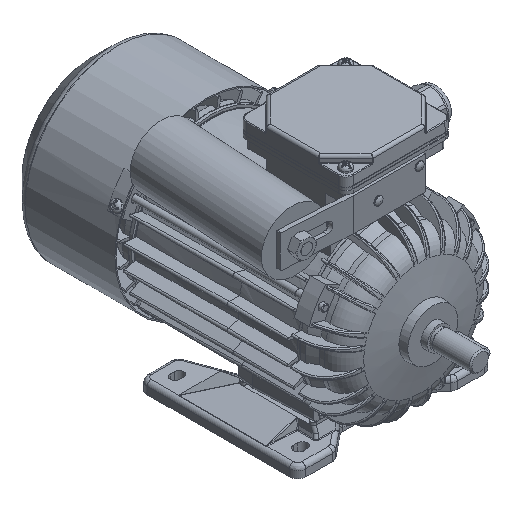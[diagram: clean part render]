
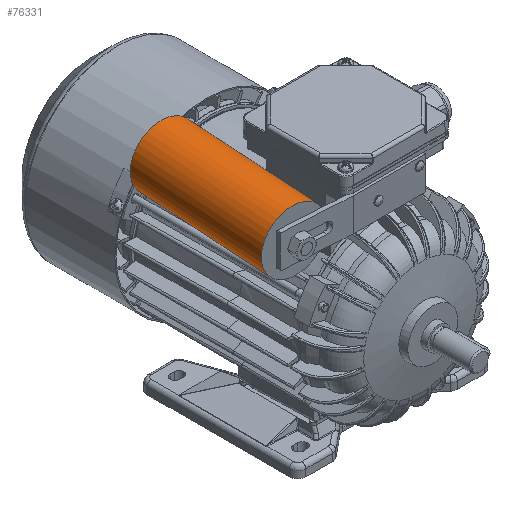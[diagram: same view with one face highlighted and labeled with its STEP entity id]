
A CAD part, isometric view. The second image highlights one B-rep face of the part: STEP entity #76331.
In plain terms, the highlighted cylindrical face has radius 22.5 mm (diameter 45 mm), a full revolution.
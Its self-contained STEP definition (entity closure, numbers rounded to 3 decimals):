
#822=ELLIPSE('',#81096,22.5,22.5);
#823=ELLIPSE('',#81097,22.5,22.5);
#3233=CIRCLE('',#80682,22.5);
#3235=CIRCLE('',#80685,22.5);
#3480=CIRCLE('',#81094,22.5);
#4482=CYLINDRICAL_SURFACE('',#81095,22.5);
#6774=LINE('',#125297,#9967);
#6775=LINE('',#125299,#9968);
#6795=LINE('',#125364,#9988);
#6796=LINE('',#125365,#9989);
#9967=VECTOR('',#92316,1000.);
#9968=VECTOR('',#92319,1000.);
#9988=VECTOR('',#92373,1000.);
#9989=VECTOR('',#92374,1000.);
#23932=ORIENTED_EDGE('',*,*,#34043,.F.);
#23933=ORIENTED_EDGE('',*,*,#34762,.T.);
#23934=ORIENTED_EDGE('',*,*,#34763,.T.);
#23935=ORIENTED_EDGE('',*,*,#34759,.T.);
#23936=ORIENTED_EDGE('',*,*,#34764,.F.);
#23937=ORIENTED_EDGE('',*,*,#34765,.T.);
#23938=ORIENTED_EDGE('',*,*,#34734,.F.);
#23939=ORIENTED_EDGE('',*,*,#34041,.T.);
#23940=ORIENTED_EDGE('',*,*,#34732,.F.);
#34041=EDGE_CURVE('',#40364,#40363,#3233,.T.);
#34043=EDGE_CURVE('',#40365,#40365,#3235,.T.);
#34732=EDGE_CURVE('',#40826,#40363,#6774,.T.);
#34734=EDGE_CURVE('',#40364,#40825,#6775,.F.);
#34759=EDGE_CURVE('',#40843,#40844,#3480,.T.);
#34762=EDGE_CURVE('',#40826,#40845,#822,.F.);
#34763=EDGE_CURVE('',#40845,#40843,#6795,.T.);
#34764=EDGE_CURVE('',#40846,#40844,#6796,.T.);
#34765=EDGE_CURVE('',#40846,#40825,#823,.F.);
#40363=VERTEX_POINT('',#120188);
#40364=VERTEX_POINT('',#120190);
#40365=VERTEX_POINT('',#120194);
#40825=VERTEX_POINT('',#125295);
#40826=VERTEX_POINT('',#125296);
#40843=VERTEX_POINT('',#125357);
#40844=VERTEX_POINT('',#125358);
#40845=VERTEX_POINT('',#125363);
#40846=VERTEX_POINT('',#125366);
#47128=EDGE_LOOP('',(#23932));
#47129=EDGE_LOOP('',(#23933,#23934,#23935,#23936,#23937,#23938,#23939,#23940));
#50746=FACE_BOUND('',#47128,.T.);
#50747=FACE_BOUND('',#47129,.T.);
#76331=ADVANCED_FACE('',(#50746,#50747),#4482,.T.);
#80682=AXIS2_PLACEMENT_3D('',#120189,#91412,#91413);
#80685=AXIS2_PLACEMENT_3D('',#120193,#91418,#91419);
#81094=AXIS2_PLACEMENT_3D('',#125356,#92365,#92366);
#81095=AXIS2_PLACEMENT_3D('',#125361,#92369,#92370);
#81096=AXIS2_PLACEMENT_3D('',#125362,#92371,#92372);
#81097=AXIS2_PLACEMENT_3D('',#125367,#92375,#92376);
#91412=DIRECTION('',(0.061,0.998,0.));
#91413=DIRECTION('',(0.998,-0.061,0.));
#91418=DIRECTION('',(0.061,0.998,0.));
#91419=DIRECTION('',(0.998,-0.061,0.));
#92316=DIRECTION('',(-0.061,-0.998,0.));
#92319=DIRECTION('',(-0.061,-0.998,0.));
#92365=DIRECTION('',(0.061,0.998,0.));
#92366=DIRECTION('',(0.998,-0.061,0.));
#92369=DIRECTION('',(-0.061,-0.998,0.));
#92370=DIRECTION('',(0.,0.,-1.));
#92371=DIRECTION('',(-0.061,-0.998,0.));
#92372=DIRECTION('',(-0.998,0.061,0.));
#92373=DIRECTION('',(-0.061,-0.998,0.));
#92374=DIRECTION('',(-0.061,-0.998,0.));
#92375=DIRECTION('',(-0.061,-0.998,0.));
#92376=DIRECTION('',(-0.998,0.061,0.));
#120188=CARTESIAN_POINT('',(-49.63,-57.544,77.397));
#120189=CARTESIAN_POINT('',(-71.845,-56.186,80.7));
#120190=CARTESIAN_POINT('',(-49.63,-57.544,84.003));
#120193=CARTESIAN_POINT('',(-65.618,45.624,80.7));
#120194=CARTESIAN_POINT('',(-43.16,44.25,80.7));
#125295=CARTESIAN_POINT('',(-49.63,-57.541,84.003));
#125296=CARTESIAN_POINT('',(-49.63,-57.541,77.397));
#125297=CARTESIAN_POINT('',(-49.628,-57.503,77.397));
#125299=CARTESIAN_POINT('',(-49.628,-57.503,84.003));
#125356=CARTESIAN_POINT('',(-71.845,-56.186,80.7));
#125357=CARTESIAN_POINT('',(-52.848,-57.348,68.7));
#125358=CARTESIAN_POINT('',(-52.848,-57.348,92.7));
#125361=CARTESIAN_POINT('',(-65.618,45.624,80.7));
#125362=CARTESIAN_POINT('',(-71.845,-56.184,80.7));
#125363=CARTESIAN_POINT('',(-52.847,-57.344,68.7));
#125364=CARTESIAN_POINT('',(-46.621,44.462,68.7));
#125365=CARTESIAN_POINT('',(-46.621,44.462,92.7));
#125366=CARTESIAN_POINT('',(-52.847,-57.344,92.7));
#125367=CARTESIAN_POINT('',(-71.845,-56.184,80.7));
